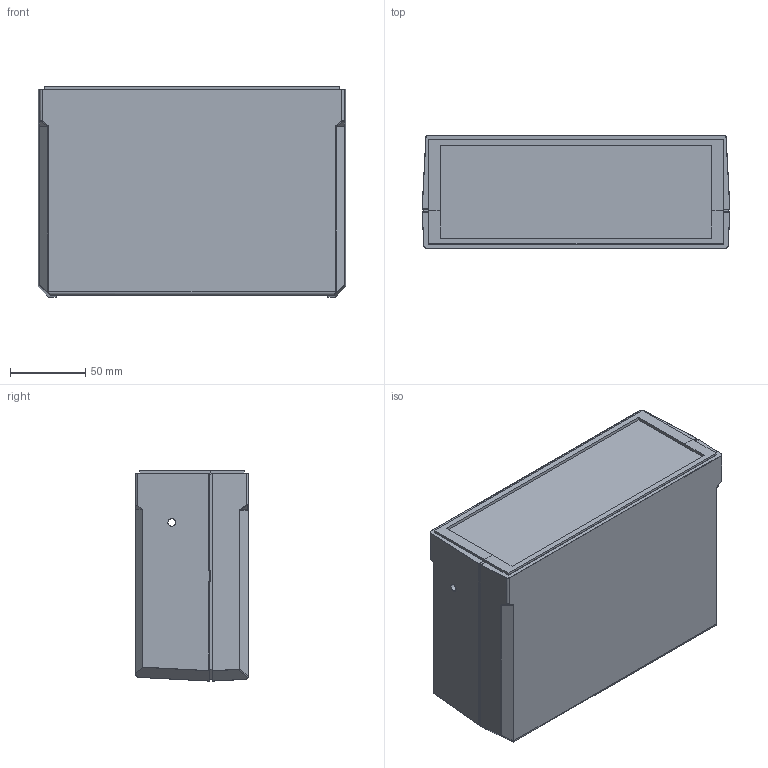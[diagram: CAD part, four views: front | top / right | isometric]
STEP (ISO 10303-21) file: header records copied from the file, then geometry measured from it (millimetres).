
FILE_DESCRIPTION (( 'STEP AP214' ), '1' );
FILE_NAME ('WTM127-TW.STEP', '2020-12-16T20:34:12', ( 'Rudy' ), ( '' ), 'SwSTEP 2.0', 'SolidWorks 2016', '' );
FILE_SCHEMA (( 'AUTOMOTIVE_DESIGN' ));
Length unit declared in the file: inch
Products named in the file (4): WTM 127 Endplate; WTM-high; WTM-short; WTM127-TW
Assembly tree (4 placements, depth 2):
  WTM127-TW
    WTM-short
    WTM-high
    WTM 127 Endplate  x2
Bounding box: 204.89 x 75.08 x 139.91 mm (x, y, z)
Volume: 318098.2 mm3; surface area: 233334.5 mm2
Topology: 4 solids, 4 shells, 975 faces, 2628 edges, 1691 vertices
Faces by surface type: plane 660, cylinder 266, bspline 30, torus 16, sphere 3
Entity records: 30484 total; most frequent: CARTESIAN_POINT 6379, ORIENTED_EDGE 5224, DIRECTION 4664, EDGE_CURVE 2612, VECTOR 2048, LINE 2048, VERTEX_POINT 1683, AXIS2_PLACEMENT_3D 1308
